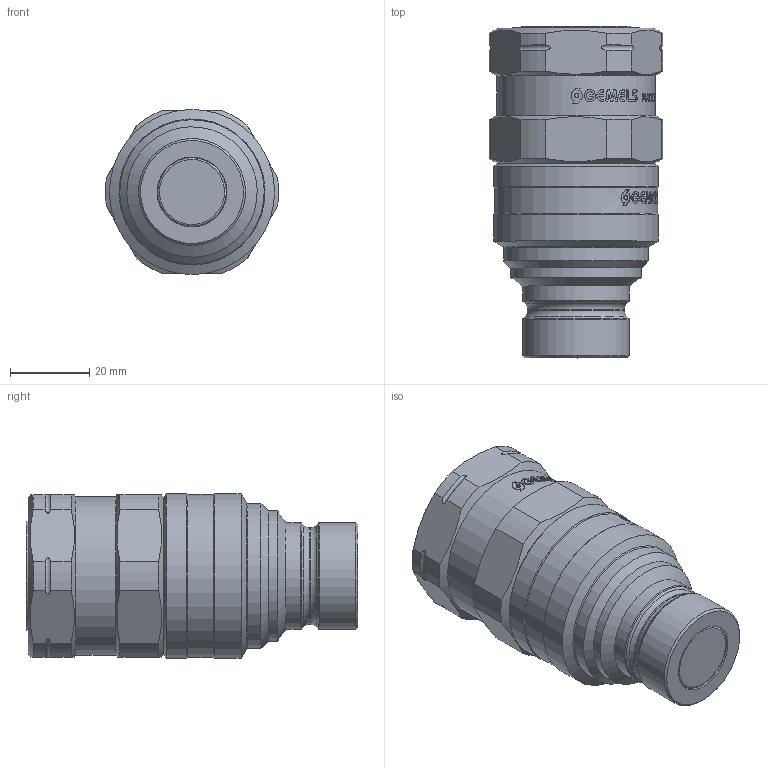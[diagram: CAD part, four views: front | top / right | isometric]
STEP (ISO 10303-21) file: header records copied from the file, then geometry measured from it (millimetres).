
FILE_DESCRIPTION(/* description */ (''),/* implementation_level */ '2;1');
FILE_NAME(/* name */ 'NC05N040004.stp',/* time_stamp */ '2024-08-26T16:35:18+02:00',/* author */ ('thomas.belotti'),/* organization */ (''),/* preprocessor_version */ 'ST-DEVELOPER v20',/* originating_system */ 'Autodesk Inventor 2024',/* authorisation */ '');
FILE_SCHEMA (('AUTOMOTIVE_DESIGN { 1 0 10303 214 3 1 1 }'));
Length unit declared in the file: millimetre
Products named in the file (1): Parte10
Bounding box: 43.74 x 83.8 x 41.67 mm (x, y, z)
Volume: 85956 mm3; surface area: 16132.4 mm2
Topology: 1 solids, 4 shells, 1078 faces, 3066 edges, 2039 vertices
Faces by surface type: bspline 693, plane 273, cylinder 82, cone 17, torus 13
Full cylindrical faces by diameter (mm): 17.55 x1, 17.65 x1, 22.631 x1, 23 x1, 24 x1, 24.5 x1, 27 x2, 27.5 x1, 32.95 x1, 36.5 x1, 37 x1, 37.3 x1, 37.905 x1, 40 x1, 41.2 x1, 41.7 x2
Entity records: 46593 total; most frequent: CARTESIAN_POINT 21986, ORIENTED_EDGE 6132, EDGE_CURVE 3066, DIRECTION 2763, VERTEX_POINT 2038, B_SPLINE_CURVE_WITH_KNOTS 1444, LINE 1197, VECTOR 1197
